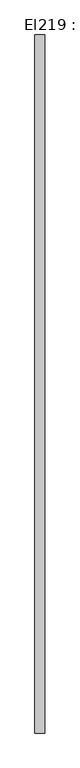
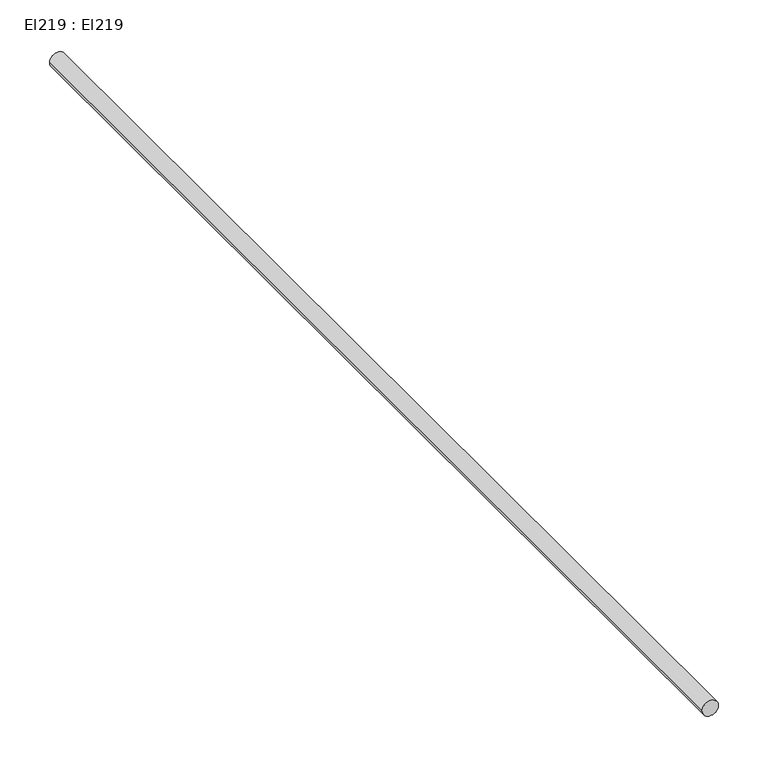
"""IFC4 building model written with IfcOpenShell, lengths in millimetres: cable carrier segment geometry, El219 : El219."""

from ifc_helpers import new_model, si_unit, point, frame, frame_2d, origin, place, context, project, spatial, circle_curve, trimmed, segment, composite_curve, outline, extrude, source, transform, mapped, element, save


def el219_el219_0afb55c7(model_context):
    return source(origin(), model_context, "Body", "SweptSolid", [
        extrude(outline(composite_curve([segment(trimmed(circle_curve(frame_2d((300.0, 3950.0)), 9.5), [point((300.0, 3940.5))], [point((300.0, 3959.5))], False, "CARTESIAN"), True, "CONTINUOUS"), segment(trimmed(circle_curve(frame_2d((300.0, 3950.0)), 9.5), [point((300.0, 3959.5))], [point((300.0, 3940.5))], False, "CARTESIAN"), True, "CONTINUOUS")], self_intersect=False)), frame((0.0, 25263.369, 0.0), z_axis=(0.0, 1.0, 0.0), x_axis=(0.0, 0.0, 1.0)), (0.0, 0.0, 1.0), 1316.86),
    ])


if __name__ == "__main__":
    model = new_model("IFC4")
    model_context = context("Model", 3, world=origin())
    ifc_project = project(units=[si_unit("LENGTHUNIT", "METRE", prefix="MILLI")], contexts=[model_context])
    site = spatial("IfcSite", under=ifc_project)
    building = spatial("IfcBuilding", under=site)
    placement = place(None, origin())
    el219_el219_shape = el219_el219_0afb55c7(model_context)
    element("IfcCableCarrierSegment", 1, ObjectType="El219 : El219", at=placement, inside=building, context=model_context, shape_type="MappedRepresentation", body=[
        mapped(el219_el219_shape, transform((0.0, 0.0, 0.0), x_axis=(1.0, 0.0, 0.0), y_axis=(0.0, 1.0, 0.0), z_axis=(0.0, 0.0, 1.0))),
    ])
    save(model, "model.ifc")
